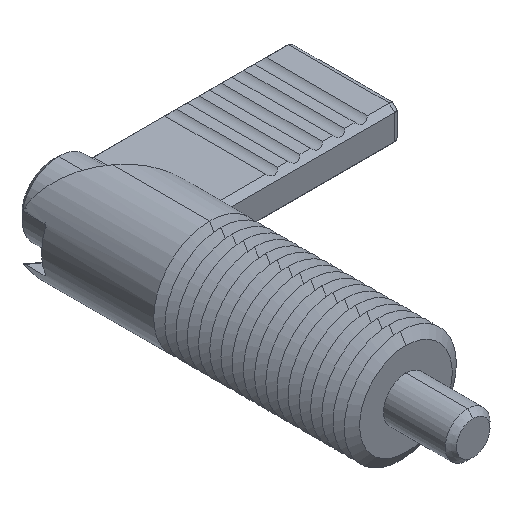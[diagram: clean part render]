
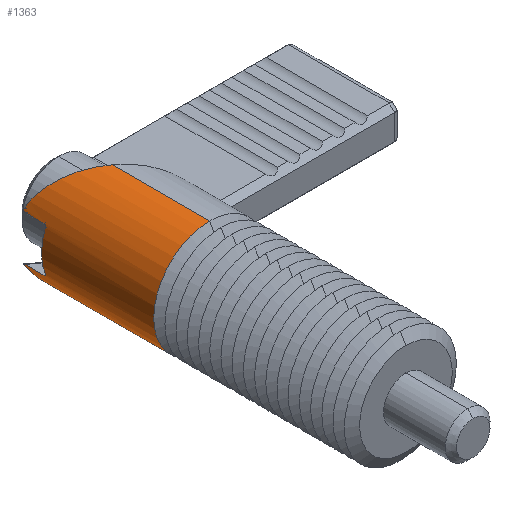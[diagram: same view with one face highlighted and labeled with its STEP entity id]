
A CAD part, isometric view. The second image highlights one B-rep face of the part: STEP entity #1363.
In plain terms, the highlighted cylindrical face has radius 5 mm (diameter 10 mm), a partial arc.
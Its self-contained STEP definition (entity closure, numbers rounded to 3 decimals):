
#276 = VECTOR ( 'NONE', #277, 1000. ) ;
#277 = DIRECTION ( 'NONE',  ( 0., 1., 0. ) ) ;
#304 = ORIENTED_EDGE ( 'NONE', *, *, #306, .F. ) ;
#305 = ORIENTED_EDGE ( 'NONE', *, *, #1321, .T. ) ;
#306 = EDGE_CURVE ( 'NONE', #463, #423, #1891, .T. ) ;
#423 = VERTEX_POINT ( 'NONE', #2075 ) ;
#463 = VERTEX_POINT ( 'NONE', #2148 ) ;
#920 = ORIENTED_EDGE ( 'NONE', *, *, #923, .T. ) ;
#923 = EDGE_CURVE ( 'NONE', #4411, #1322, #2938, .T. ) ;
#1084 = EDGE_CURVE ( 'NONE', #1369, #1371, #3265, .T. ) ;
#1321 = EDGE_CURVE ( 'NONE', #1322, #423, #3694, .T. ) ;
#1322 = VERTEX_POINT ( 'NONE', #3690 ) ;
#1363 = ADVANCED_FACE ( 'NONE', ( #3782 ), #3781, .T. ) ;
#1364 = EDGE_LOOP ( 'NONE', ( #1365, #1366, #1367, #1370, #4407, #4403, #4405, #4409, #4413, #920, #305, #304 ) ) ;
#1365 = ORIENTED_EDGE ( 'NONE', *, *, #1404, .F. ) ;
#1366 = ORIENTED_EDGE ( 'NONE', *, *, #1382, .T. ) ;
#1367 = ORIENTED_EDGE ( 'NONE', *, *, #1368, .T. ) ;
#1368 = EDGE_CURVE ( 'NONE', #1380, #1369, #3819, .T. ) ;
#1369 = VERTEX_POINT ( 'NONE', #3818 ) ;
#1370 = ORIENTED_EDGE ( 'NONE', *, *, #1084, .T. ) ;
#1371 = VERTEX_POINT ( 'NONE', #3820 ) ;
#1380 = VERTEX_POINT ( 'NONE', #3793 ) ;
#1382 = EDGE_CURVE ( 'NONE', #1402, #1380, #3838, .T. ) ;
#1402 = VERTEX_POINT ( 'NONE', #3845 ) ;
#1404 = EDGE_CURVE ( 'NONE', #1402, #463, #3894, .T. ) ;
#1887 = DIRECTION ( 'NONE',  ( 0., 0., -1. ) ) ;
#1888 = DIRECTION ( 'NONE',  ( 0., -1., 0. ) ) ;
#1889 = CARTESIAN_POINT ( 'NONE',  ( 0., 17.5, 0. ) ) ;
#1890 = AXIS2_PLACEMENT_3D ( 'NONE', #1889, #1888, #1887 ) ;
#1891 = CIRCLE ( 'NONE', #1890, 5. ) ;
#2075 = CARTESIAN_POINT ( 'NONE',  ( 0., 17.5, -5. ) ) ;
#2148 = CARTESIAN_POINT ( 'NONE',  ( 0., 17.5, 5. ) ) ;
#2934 = CARTESIAN_POINT ( 'NONE',  ( 0., 26.2, -5. ) ) ;
#2935 = CARTESIAN_POINT ( 'NONE',  ( -1.962, 27.671, -5. ) ) ;
#2936 = CARTESIAN_POINT ( 'NONE',  ( -3.627, 28.92, -3.962 ) ) ;
#2937 = CARTESIAN_POINT ( 'NONE',  ( -4.49, 29.567, -2.2 ) ) ;
#2938 =( BOUNDED_CURVE ( )  B_SPLINE_CURVE ( 3, ( #2937, #2936, #2935, #2934 ),
 .UNSPECIFIED., .F., .T. ) 
 B_SPLINE_CURVE_WITH_KNOTS ( ( 4, 4 ),
 ( 3.597, 4.712 ),
 .UNSPECIFIED. ) 
 CURVE ( )  GEOMETRIC_REPRESENTATION_ITEM ( )  RATIONAL_B_SPLINE_CURVE ( ( 1., 0.899, 0.899, 1. ) ) 
 REPRESENTATION_ITEM ( '' )  );
#3213 = B_SPLINE_CURVE_WITH_KNOTS ( 'NONE', 3,
 ( #3918, #3917, #3916, #3465, #3464, #3717 ),
 .UNSPECIFIED., .F., .F.,
 ( 4, 2, 4 ),
 ( 0., 0., 0. ),
 .UNSPECIFIED. ) ;
#3262 = DIRECTION ( 'NONE',  ( 0., -1., 0. ) ) ;
#3263 = VECTOR ( 'NONE', #3262, 1000. ) ;
#3264 = CARTESIAN_POINT ( 'NONE',  ( -4.583, 0., 2. ) ) ;
#3265 = LINE ( 'NONE', #3264, #3263 ) ;
#3464 = CARTESIAN_POINT ( 'NONE',  ( -4.645, 27.5, 1.851 ) ) ;
#3465 = CARTESIAN_POINT ( 'NONE',  ( -4.624, 27.52, 1.902 ) ) ;
#3690 = CARTESIAN_POINT ( 'NONE',  ( 0., 26.2, -5. ) ) ;
#3691 = DIRECTION ( 'NONE',  ( 0., -1., 0. ) ) ;
#3692 = VECTOR ( 'NONE', #3691, 1000. ) ;
#3693 = CARTESIAN_POINT ( 'NONE',  ( 0., 0., -5. ) ) ;
#3694 = LINE ( 'NONE', #3693, #3692 ) ;
#3711 = CARTESIAN_POINT ( 'NONE',  ( -4.583, 0., -2. ) ) ;
#3712 = LINE ( 'NONE', #3711, #276 ) ;
#3717 = CARTESIAN_POINT ( 'NONE',  ( -4.665, 27.5, 1.8 ) ) ;
#3772 = DIRECTION ( 'NONE',  ( 0., 0., -1. ) ) ;
#3773 = DIRECTION ( 'NONE',  ( 0., -1., 0. ) ) ;
#3774 = CARTESIAN_POINT ( 'NONE',  ( 0., 0., 0. ) ) ;
#3775 = AXIS2_PLACEMENT_3D ( 'NONE', #3774, #3773, #3772 ) ;
#3781 = CYLINDRICAL_SURFACE ( 'NONE', #3775, 5. ) ;
#3782 = FACE_OUTER_BOUND ( 'NONE', #1364, .T. ) ;
#3793 = CARTESIAN_POINT ( 'NONE',  ( -4.49, 29.567, 2.2 ) ) ;
#3811 = CARTESIAN_POINT ( 'NONE',  ( -4.583, 29.387, 2. ) ) ;
#3812 = CARTESIAN_POINT ( 'NONE',  ( -4.583, 29.444, 2. ) ) ;
#3813 = CARTESIAN_POINT ( 'NONE',  ( -4.576, 29.503, 2.016 ) ) ;
#3814 = CARTESIAN_POINT ( 'NONE',  ( -4.54, 29.579, 2.094 ) ) ;
#3815 = CARTESIAN_POINT ( 'NONE',  ( -4.514, 29.585, 2.151 ) ) ;
#3816 = CARTESIAN_POINT ( 'NONE',  ( -4.49, 29.567, 2.2 ) ) ;
#3818 = CARTESIAN_POINT ( 'NONE',  ( -4.583, 29.387, 2. ) ) ;
#3819 = B_SPLINE_CURVE_WITH_KNOTS ( 'NONE', 3,
 ( #3816, #3815, #3814, #3813, #3812, #3811 ),
 .UNSPECIFIED., .F., .F.,
 ( 4, 2, 4 ),
 ( 0., 0., 0. ),
 .UNSPECIFIED. ) ;
#3820 = CARTESIAN_POINT ( 'NONE',  ( -4.583, 27.7, 2. ) ) ;
#3834 = CARTESIAN_POINT ( 'NONE',  ( -4.49, 29.567, 2.2 ) ) ;
#3835 = CARTESIAN_POINT ( 'NONE',  ( -3.627, 28.92, 3.962 ) ) ;
#3836 = CARTESIAN_POINT ( 'NONE',  ( -1.962, 27.671, 5. ) ) ;
#3837 = CARTESIAN_POINT ( 'NONE',  ( 0., 26.2, 5. ) ) ;
#3838 =( BOUNDED_CURVE ( )  B_SPLINE_CURVE ( 3, ( #3837, #3836, #3835, #3834 ),
 .UNSPECIFIED., .F., .T. ) 
 B_SPLINE_CURVE_WITH_KNOTS ( ( 4, 4 ),
 ( 1.571, 2.686 ),
 .UNSPECIFIED. ) 
 CURVE ( )  GEOMETRIC_REPRESENTATION_ITEM ( )  RATIONAL_B_SPLINE_CURVE ( ( 1., 0.899, 0.899, 1. ) ) 
 REPRESENTATION_ITEM ( '' )  );
#3845 = CARTESIAN_POINT ( 'NONE',  ( 0., 26.2, 5. ) ) ;
#3891 = DIRECTION ( 'NONE',  ( 0., -1., 0. ) ) ;
#3892 = VECTOR ( 'NONE', #3891, 1000. ) ;
#3893 = CARTESIAN_POINT ( 'NONE',  ( 0., 0., 5. ) ) ;
#3894 = LINE ( 'NONE', #3893, #3892 ) ;
#3895 = B_SPLINE_CURVE_WITH_KNOTS ( 'NONE', 3,
 ( #3941, #3940, #3939, #3938, #3937, #3936 ),
 .UNSPECIFIED., .F., .F.,
 ( 4, 2, 4 ),
 ( 0., 0., 0. ),
 .UNSPECIFIED. ) ;
#3915 = CARTESIAN_POINT ( 'NONE',  ( -4.665, 27.5, 1.8 ) ) ;
#3916 = CARTESIAN_POINT ( 'NONE',  ( -4.593, 27.592, 1.976 ) ) ;
#3917 = CARTESIAN_POINT ( 'NONE',  ( -4.583, 27.645, 2. ) ) ;
#3918 = CARTESIAN_POINT ( 'NONE',  ( -4.583, 27.7, 2. ) ) ;
#3919 = CARTESIAN_POINT ( 'NONE',  ( -4.49, 29.567, -2.2 ) ) ;
#3920 = CARTESIAN_POINT ( 'NONE',  ( -4.502, 29.576, -2.176 ) ) ;
#3921 = CARTESIAN_POINT ( 'NONE',  ( -4.514, 29.58, -2.15 ) ) ;
#3922 = CARTESIAN_POINT ( 'NONE',  ( -4.538, 29.572, -2.099 ) ) ;
#3923 = CARTESIAN_POINT ( 'NONE',  ( -4.55, 29.56, -2.074 ) ) ;
#3924 = CARTESIAN_POINT ( 'NONE',  ( -4.576, 29.503, -2.016 ) ) ;
#3925 = CARTESIAN_POINT ( 'NONE',  ( -4.583, 29.444, -2. ) ) ;
#3926 = CARTESIAN_POINT ( 'NONE',  ( -4.583, 29.387, -2. ) ) ;
#3927 = CARTESIAN_POINT ( 'NONE',  ( -4.583, 27.7, -2. ) ) ;
#3928 = B_SPLINE_CURVE_WITH_KNOTS ( 'NONE', 3,
 ( #3926, #3925, #3924, #3923, #3922, #3921, #3920, #3919 ),
 .UNSPECIFIED., .F., .F.,
 ( 4, 2, 2, 4 ),
 ( 0., 0., 0., 0. ),
 .UNSPECIFIED. ) ;
#3929 = CARTESIAN_POINT ( 'NONE',  ( -4.49, 29.567, -2.2 ) ) ;
#3930 = DIRECTION ( 'NONE',  ( 0., 0., -1. ) ) ;
#3931 = DIRECTION ( 'NONE',  ( 0., -1., 0. ) ) ;
#3932 = CARTESIAN_POINT ( 'NONE',  ( 0., 27.5, 0. ) ) ;
#3933 = AXIS2_PLACEMENT_3D ( 'NONE', #3932, #3931, #3930 ) ;
#3934 = CIRCLE ( 'NONE', #3933, 5. ) ;
#3935 = CARTESIAN_POINT ( 'NONE',  ( -4.665, 27.5, -1.8 ) ) ;
#3936 = CARTESIAN_POINT ( 'NONE',  ( -4.583, 27.7, -2. ) ) ;
#3937 = CARTESIAN_POINT ( 'NONE',  ( -4.583, 27.645, -2. ) ) ;
#3938 = CARTESIAN_POINT ( 'NONE',  ( -4.593, 27.592, -1.976 ) ) ;
#3939 = CARTESIAN_POINT ( 'NONE',  ( -4.625, 27.52, -1.901 ) ) ;
#3940 = CARTESIAN_POINT ( 'NONE',  ( -4.645, 27.5, -1.851 ) ) ;
#3941 = CARTESIAN_POINT ( 'NONE',  ( -4.665, 27.5, -1.8 ) ) ;
#3942 = CARTESIAN_POINT ( 'NONE',  ( -4.583, 29.387, -2. ) ) ;
#4402 = EDGE_CURVE ( 'NONE', #4410, #4414, #3895, .T. ) ;
#4403 = ORIENTED_EDGE ( 'NONE', *, *, #4406, .T. ) ;
#4404 = VERTEX_POINT ( 'NONE', #3942 ) ;
#4405 = ORIENTED_EDGE ( 'NONE', *, *, #4402, .T. ) ;
#4406 = EDGE_CURVE ( 'NONE', #4416, #4410, #3934, .T. ) ;
#4407 = ORIENTED_EDGE ( 'NONE', *, *, #4415, .T. ) ;
#4409 = ORIENTED_EDGE ( 'NONE', *, *, #4418, .T. ) ;
#4410 = VERTEX_POINT ( 'NONE', #3935 ) ;
#4411 = VERTEX_POINT ( 'NONE', #3929 ) ;
#4412 = EDGE_CURVE ( 'NONE', #4404, #4411, #3928, .T. ) ;
#4413 = ORIENTED_EDGE ( 'NONE', *, *, #4412, .T. ) ;
#4414 = VERTEX_POINT ( 'NONE', #3927 ) ;
#4415 = EDGE_CURVE ( 'NONE', #1371, #4416, #3213, .T. ) ;
#4416 = VERTEX_POINT ( 'NONE', #3915 ) ;
#4418 = EDGE_CURVE ( 'NONE', #4414, #4404, #3712, .T. ) ;
